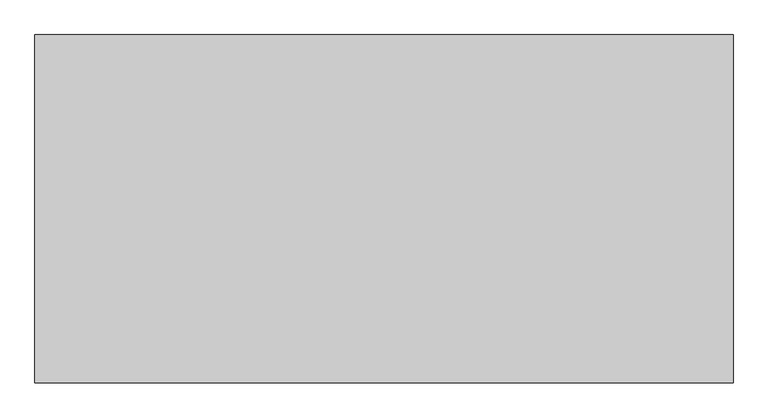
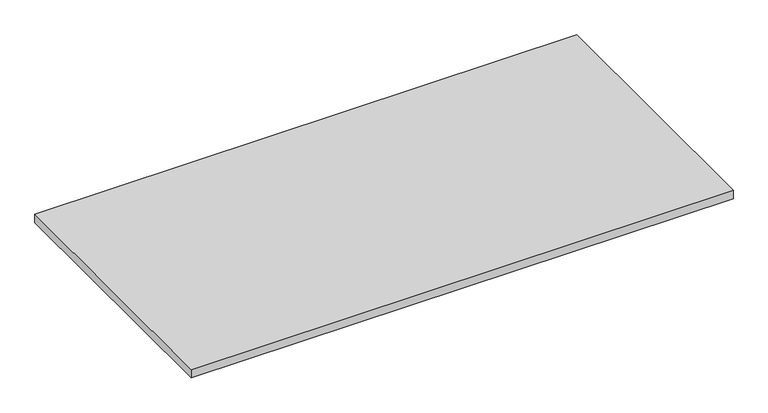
"""IFC4 building model written with IfcOpenShell, lengths in millimetres: furniture geometry, HermanMiller_CoStruc_C4700_RectangularWorkTableSurface : Lam 36D 72W for 48W SS Base."""

from ifc_helpers import new_model, si_unit, frame, origin, place, context, project, spatial, polyline, outline, extrude, source, transform, mapped, element, save


def furniture_729a5414(model_context):
    return source(origin(), model_context, "Body", "SweptSolid", [
        extrude(outline(polyline([(1525.6509999, -3.0467299), (1525.6509999, -914.4), (-299.9739999, -914.4), (-299.9739999, -3.0467299), (1525.6509999, -3.0467299)])), frame((0.0, 0.0, 852.678), z_axis=(0.0, 0.0, 1.0), x_axis=(1.0, 0.0, 0.0)), (0.0, 0.0, 1.0), 29.972),
    ])


if __name__ == "__main__":
    model = new_model("IFC4")
    model_context = context("Model", 3, world=origin())
    ifc_project = project(units=[si_unit("LENGTHUNIT", "METRE", prefix="MILLI")], contexts=[model_context])
    site = spatial("IfcSite", under=ifc_project)
    building = spatial("IfcBuilding", under=site)
    placement = place(None, origin())
    furniture_shape = furniture_729a5414(model_context)
    element("IfcFurniture", 1, ObjectType="HermanMiller_CoStruc_C4700_RectangularWorkTableSurface : Lam 36D 72W for 48W SS Base", at=placement, inside=building, context=model_context, shape_type="MappedRepresentation", body=[
        mapped(furniture_shape, transform((0.0, 0.0, 0.0), x_axis=(1.0, 0.0, 0.0), y_axis=(0.0, 1.0, 0.0), z_axis=(0.0, 0.0, 1.0))),
    ])
    save(model, "model.ifc")
